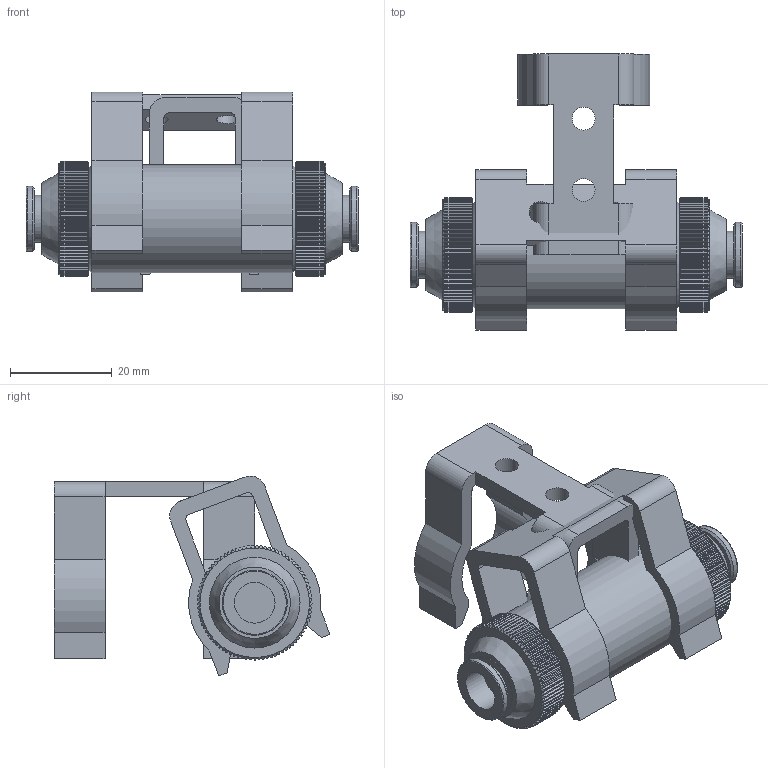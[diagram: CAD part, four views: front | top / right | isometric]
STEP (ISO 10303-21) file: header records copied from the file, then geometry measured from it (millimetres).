
FILE_DESCRIPTION( ( 'Unknown' ), '1' );
FILE_NAME( 'C:/Documents and Settings/茄惫春概平/My Documents/诀公/3d/Line Vacuum Filter/VTF-1208.stp', 'Unknown', ( 'Unknown' ), ( 'Unknown' ), 'PSStep 10.0', 'Unknown', ' ' );
FILE_SCHEMA( ( 'automotive_design' ) );
Length unit declared in the file: millimetre
Products named in the file (3): Assem1; VTF-1208; VFD0306
Bounding box: 65.2 x 54.16 x 39.26 mm (x, y, z)
Volume: 52049.8 mm3; surface area: 21445.7 mm2
Topology: 4 solids, 4 shells, 1870 faces, 5502 edges, 3664 vertices
Faces by surface type: plane 776, cylinder 730, cone 356, torus 8
Full cylindrical faces by diameter (mm): 4.5 x4, 8 x4, 9.24 x4, 12.8 x4, 21.2 x2
Entity records: 35956 total; most frequent: CARTESIAN_POINT 11616, ORIENTED_EDGE 5456, DIRECTION 4500, EDGE_CURVE 2728, VERTEX_POINT 1830, AXIS2_PLACEMENT_3D 1684, LINE 1132, VECTOR 1132
